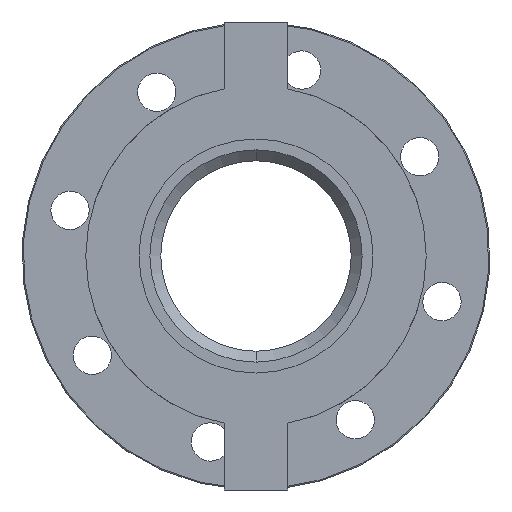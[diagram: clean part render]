
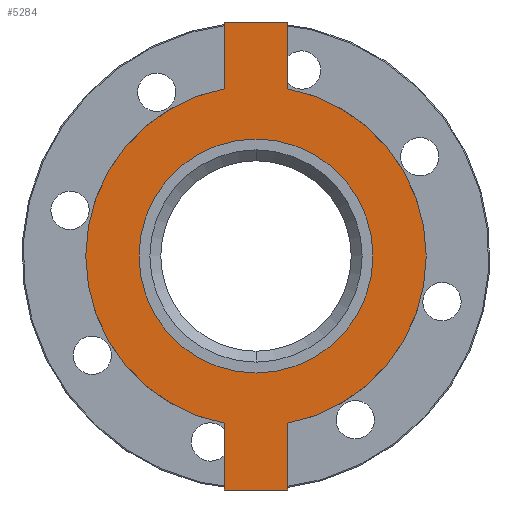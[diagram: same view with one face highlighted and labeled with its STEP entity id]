
A CAD part, front view. The second image highlights one B-rep face of the part: STEP entity #5284.
In plain terms, the highlighted planar face has unit normal (0, -1, 0).
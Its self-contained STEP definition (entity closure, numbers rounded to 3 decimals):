
#44 = EDGE_LOOP ( 'NONE', ( #4945, #4946 ) ) ;
#45 = EDGE_LOOP ( 'NONE', ( #4937, #4938, #4939, #4940, #4941, #4942, #4943, #4944 ) ) ;
#66 = VERTEX_POINT ( 'NONE', #3890 ) ;
#79 = VERTEX_POINT ( 'NONE', #3903 ) ;
#82 = VERTEX_POINT ( 'NONE', #3906 ) ;
#83 = VERTEX_POINT ( 'NONE', #3907 ) ;
#717 = DIRECTION ( 'NONE',  ( 0., 1., 0. ) ) ;
#718 = DIRECTION ( 'NONE',  ( 0., 0., 1. ) ) ;
#876 = VECTOR ( 'NONE', #1039, 1000. ) ;
#884 = VECTOR ( 'NONE', #1023, 1000. ) ;
#885 = VECTOR ( 'NONE', #1034, 1000. ) ;
#886 = VECTOR ( 'NONE', #1032, 1000. ) ;
#887 = VECTOR ( 'NONE', #1029, 1000. ) ;
#889 = AXIS2_PLACEMENT_3D ( 'NONE', #1019, #1020, #1021 ) ;
#890 = CIRCLE ( 'NONE', #889, 55. ) ;
#892 = VECTOR ( 'NONE', #1044, 1000. ) ;
#893 = CIRCLE ( 'NONE', #897, 80. ) ;
#897 = AXIS2_PLACEMENT_3D ( 'NONE', #1051, #717, #718 ) ;
#955 = CARTESIAN_POINT ( 'NONE',  ( 29.827, -44.92, -90.703 ) ) ;
#956 = CARTESIAN_POINT ( 'NONE',  ( -0.173, -44.92, -59.284 ) ) ;
#959 = CARTESIAN_POINT ( 'NONE',  ( 29.827, -44.92, 129.297 ) ) ;
#962 = CARTESIAN_POINT ( 'NONE',  ( -0.173, -44.92, 129.297 ) ) ;
#965 = CARTESIAN_POINT ( 'NONE',  ( -0.173, -44.92, -90.703 ) ) ;
#966 = CARTESIAN_POINT ( 'NONE',  ( -0.173, -44.92, 97.878 ) ) ;
#1015 = CARTESIAN_POINT ( 'NONE',  ( -0.173, -44.92, -90.703 ) ) ;
#1017 = LINE ( 'NONE', #1027, #887 ) ;
#1018 = LINE ( 'NONE', #1015, #884 ) ;
#1019 = CARTESIAN_POINT ( 'NONE',  ( 14.827, -44.92, 19.297 ) ) ;
#1020 = DIRECTION ( 'NONE',  ( 0., 1., 0. ) ) ;
#1021 = DIRECTION ( 'NONE',  ( 0., 0., 1. ) ) ;
#1022 = LINE ( 'NONE', #1030, #886 ) ;
#1023 = DIRECTION ( 'NONE',  ( -1., 0., 0. ) ) ;
#1025 = LINE ( 'NONE', #1033, #885 ) ;
#1027 = CARTESIAN_POINT ( 'NONE',  ( -0.173, -44.92, 86.003 ) ) ;
#1029 = DIRECTION ( 'NONE',  ( 0., 0., 1. ) ) ;
#1030 = CARTESIAN_POINT ( 'NONE',  ( 29.827, -44.92, -49.223 ) ) ;
#1032 = DIRECTION ( 'NONE',  ( 0., 0., -1. ) ) ;
#1033 = CARTESIAN_POINT ( 'NONE',  ( -0.173, -44.92, -49.223 ) ) ;
#1034 = DIRECTION ( 'NONE',  ( 0., 0., 1. ) ) ;
#1037 = LINE ( 'NONE', #1038, #876 ) ;
#1038 = CARTESIAN_POINT ( 'NONE',  ( 29.827, -44.92, 86.003 ) ) ;
#1039 = DIRECTION ( 'NONE',  ( 0., 0., -1. ) ) ;
#1042 = LINE ( 'NONE', #1043, #892 ) ;
#1043 = CARTESIAN_POINT ( 'NONE',  ( -0.173, -44.92, 129.297 ) ) ;
#1044 = DIRECTION ( 'NONE',  ( 1., 0., 0. ) ) ;
#1051 = CARTESIAN_POINT ( 'NONE',  ( 14.827, -44.92, 19.297 ) ) ;
#1313 = VERTEX_POINT ( 'NONE', #955 ) ;
#1314 = VERTEX_POINT ( 'NONE', #956 ) ;
#1317 = VERTEX_POINT ( 'NONE', #959 ) ;
#1320 = VERTEX_POINT ( 'NONE', #962 ) ;
#1323 = VERTEX_POINT ( 'NONE', #965 ) ;
#1324 = VERTEX_POINT ( 'NONE', #966 ) ;
#1654 = CARTESIAN_POINT ( 'NONE',  ( 14.827, -44.92, 19.297 ) ) ;
#1662 = FACE_OUTER_BOUND ( 'NONE', #45, .T. ) ;
#1663 = FACE_BOUND ( 'NONE', #44, .T. ) ;
#1664 = PLANE ( 'NONE',  #5976 ) ;
#1666 = DIRECTION ( 'NONE',  ( 0., 1., 0. ) ) ;
#1667 = DIRECTION ( 'NONE',  ( 0., 0., 1. ) ) ;
#1726 = CARTESIAN_POINT ( 'NONE',  ( 14.827, -44.92, 19.297 ) ) ;
#1727 = DIRECTION ( 'NONE',  ( 0., 1., 0. ) ) ;
#1728 = DIRECTION ( 'NONE',  ( 0., 0., 1. ) ) ;
#1856 = CARTESIAN_POINT ( 'NONE',  ( 14.827, -44.92, 19.297 ) ) ;
#1857 = DIRECTION ( 'NONE',  ( 0., 1., 0. ) ) ;
#1858 = DIRECTION ( 'NONE',  ( 0., 0., 1. ) ) ;
#2952 = EDGE_CURVE ( 'NONE', #83, #79, #890, .T. ) ;
#2953 = EDGE_CURVE ( 'NONE', #1313, #1323, #1018, .T. ) ;
#2955 = EDGE_CURVE ( 'NONE', #1324, #1320, #1017, .T. ) ;
#2956 = EDGE_CURVE ( 'NONE', #66, #1313, #1022, .T. ) ;
#2957 = EDGE_CURVE ( 'NONE', #1323, #1314, #1025, .T. ) ;
#3013 = CIRCLE ( 'NONE', #3018, 80. ) ;
#3018 = AXIS2_PLACEMENT_3D ( 'NONE', #1856, #1857, #1858 ) ;
#3066 = EDGE_CURVE ( 'NONE', #1317, #82, #1037, .T. ) ;
#3068 = EDGE_CURVE ( 'NONE', #1320, #1317, #1042, .T. ) ;
#3070 = EDGE_CURVE ( 'NONE', #1314, #1324, #893, .T. ) ;
#3890 = CARTESIAN_POINT ( 'NONE',  ( 29.827, -44.92, -59.284 ) ) ;
#3903 = CARTESIAN_POINT ( 'NONE',  ( 14.827, -44.92, -35.703 ) ) ;
#3906 = CARTESIAN_POINT ( 'NONE',  ( 29.827, -44.92, 97.878 ) ) ;
#3907 = CARTESIAN_POINT ( 'NONE',  ( 14.827, -44.92, 74.297 ) ) ;
#4937 = ORIENTED_EDGE ( 'NONE', *, *, #5343, .F. ) ;
#4938 = ORIENTED_EDGE ( 'NONE', *, *, #3066, .F. ) ;
#4939 = ORIENTED_EDGE ( 'NONE', *, *, #3068, .F. ) ;
#4940 = ORIENTED_EDGE ( 'NONE', *, *, #2955, .F. ) ;
#4941 = ORIENTED_EDGE ( 'NONE', *, *, #3070, .F. ) ;
#4942 = ORIENTED_EDGE ( 'NONE', *, *, #2957, .F. ) ;
#4943 = ORIENTED_EDGE ( 'NONE', *, *, #2953, .F. ) ;
#4944 = ORIENTED_EDGE ( 'NONE', *, *, #2956, .F. ) ;
#4945 = ORIENTED_EDGE ( 'NONE', *, *, #5300, .T. ) ;
#4946 = ORIENTED_EDGE ( 'NONE', *, *, #2952, .T. ) ;
#5284 = ADVANCED_FACE ( 'NONE', ( #1662, #1663 ), #1664, .F. ) ;
#5300 = EDGE_CURVE ( 'NONE', #79, #83, #5991, .T. ) ;
#5343 = EDGE_CURVE ( 'NONE', #82, #66, #3013, .T. ) ;
#5976 = AXIS2_PLACEMENT_3D ( 'NONE', #1654, #1666, #1667 ) ;
#5991 = CIRCLE ( 'NONE', #5994, 55. ) ;
#5994 = AXIS2_PLACEMENT_3D ( 'NONE', #1726, #1727, #1728 ) ;
